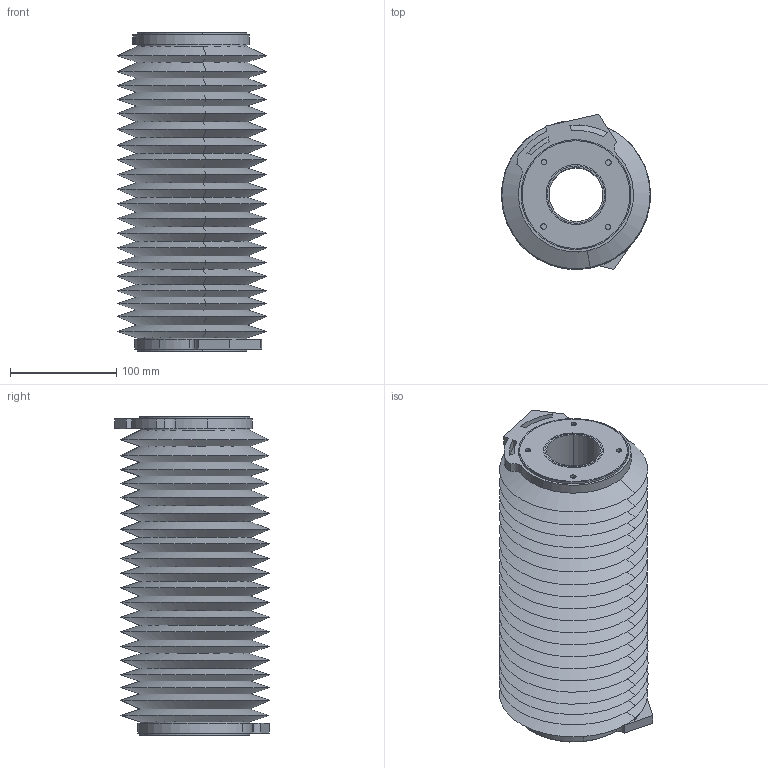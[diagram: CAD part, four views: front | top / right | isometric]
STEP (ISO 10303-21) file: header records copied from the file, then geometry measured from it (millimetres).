
FILE_DESCRIPTION (( 'STEP AP214' ), '1' );
FILE_NAME ('BTS-50-300-070-V.STEP', '2014-01-28T16:17:04', ( '' ), ( '' ), 'SwSTEP 2.0', 'SolidWorks 2014', '' );
FILE_SCHEMA (( 'AUTOMOTIVE_DESIGN' ));
Length unit declared in the file: inch
Products named in the file (1): BTS-50-300-070-V
Bounding box: 140.61 x 145.92 x 300.51 mm (x, y, z)
Volume: 2876323.9 mm3; surface area: 380690.7 mm2
Topology: 1 solids, 1 shells, 196 faces, 430 edges, 260 vertices
Faces by surface type: cone 80, cylinder 66, plane 46, torus 4
Entity records: 6582 total; most frequent: DIRECTION 1048, CARTESIAN_POINT 887, ORIENTED_EDGE 860, EDGE_CURVE 430, AXIS2_PLACEMENT_3D 421, VERTEX_POINT 260, EDGE_LOOP 230, CIRCLE 224
